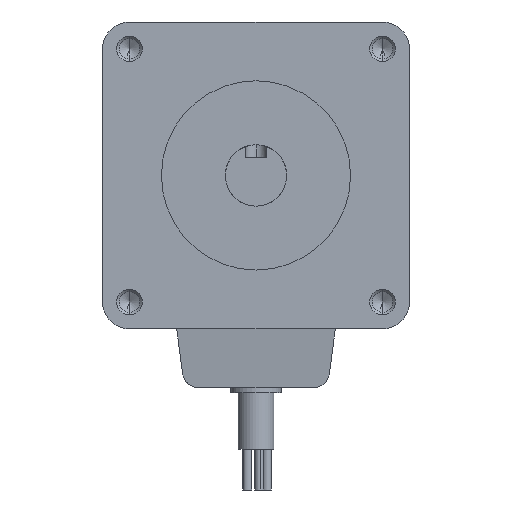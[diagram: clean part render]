
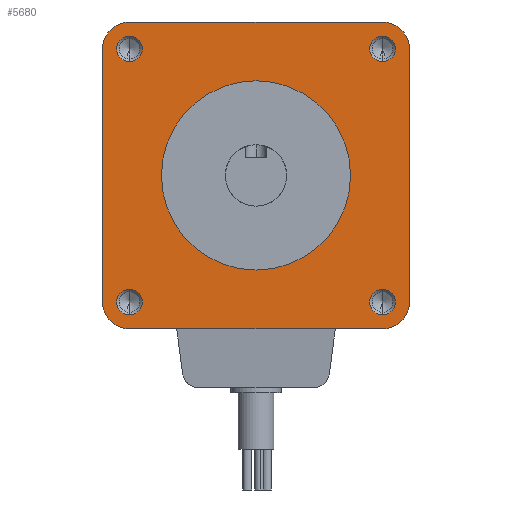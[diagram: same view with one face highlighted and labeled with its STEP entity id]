
A CAD part, front view. The second image highlights one B-rep face of the part: STEP entity #5680.
In plain terms, the highlighted planar face has unit normal (0, -1, 0).
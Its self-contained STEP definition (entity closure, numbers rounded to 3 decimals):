
#5279=CARTESIAN_POINT('POINT144486',(24.7,0.,
   30.));
#5280=VERTEX_POINT('VERTEX144486',#5279);
#5287=CARTESIAN_POINT('POINT144487',(30.,0.,
   24.7));
#5288=VERTEX_POINT('VERTEX144487',#5287);
#5289=CARTESIAN_POINT('POS243264',(24.7,0.,
   24.7));
#5290=DIRECTION('DIR363775',(0.,1.,
   0.));
#5291=DIRECTION('DIR363776',(0.,0.
   ,1.));
#5292=AXIS2_PLACEMENT_3D('AXIS120512',#5289,#5290,#5291);
#5293=CIRCLE('ELLIPSE55788',#5292,5.3);
#5294=EDGE_CURVE('EDGE224355',#5280,#5288,#5293,.T.);
#5312=CARTESIAN_POINT('POINT144488',(30.,0.,
   -24.7));
#5313=VERTEX_POINT('VERTEX144488',#5312);
#5314=CARTESIAN_POINT('POS243267',(30.,0.,
   24.7));
#5315=DIRECTION('DIR363780',(0.,
   0.,-1.));
#5316=VECTOR('VEC122754',#5315,1.);
#5317=LINE('STRAIGHT122754',#5314,#5316);
#5318=EDGE_CURVE('EDGE224357',#5288,#5313,#5317,.T.);
#5336=CARTESIAN_POINT('POINT144489',(24.7,0.,
   -30.));
#5337=VERTEX_POINT('VERTEX144489',#5336);
#5338=CARTESIAN_POINT('POS243270',(24.7,0.,
   -24.7));
#5339=DIRECTION('DIR363784',(0.,1.,
   0.));
#5340=DIRECTION('DIR363785',(1.,0.,0.));
#5341=AXIS2_PLACEMENT_3D('AXIS120515',#5338,#5339,#5340);
#5342=CIRCLE('ELLIPSE55789',#5341,5.3);
#5343=EDGE_CURVE('EDGE224359',#5313,#5337,#5342,.T.);
#5361=CARTESIAN_POINT('POINT144490',(-24.7,0.,
   -30.));
#5362=VERTEX_POINT('VERTEX144490',#5361);
#5363=CARTESIAN_POINT('POS243273',(24.7,0.,
   -30.));
#5364=DIRECTION('DIR363789',(-1.,0.,
   0.));
#5365=VECTOR('VEC122757',#5364,1.);
#5366=LINE('STRAIGHT122757',#5363,#5365);
#5367=EDGE_CURVE('EDGE224361',#5337,#5362,#5366,.T.);
#5385=CARTESIAN_POINT('POINT144491',(-30.,0.,
   -24.7));
#5386=VERTEX_POINT('VERTEX144491',#5385);
#5387=CARTESIAN_POINT('POS243276',(-24.7,0.,
   -24.7));
#5388=DIRECTION('DIR363793',(0.,1.,
   0.));
#5389=DIRECTION('DIR363794',(0.,
   0.,-1.));
#5390=AXIS2_PLACEMENT_3D('AXIS120518',#5387,#5388,#5389);
#5391=CIRCLE('ELLIPSE55790',#5390,5.3);
#5392=EDGE_CURVE('EDGE224363',#5362,#5386,#5391,.T.);
#5410=CARTESIAN_POINT('POINT144492',(-30.,0.,
   24.7));
#5411=VERTEX_POINT('VERTEX144492',#5410);
#5412=CARTESIAN_POINT('POS243279',(-30.,0.,
   -24.7));
#5413=DIRECTION('DIR363798',(0.,0.
   ,1.));
#5414=VECTOR('VEC122760',#5413,1.);
#5415=LINE('STRAIGHT122760',#5412,#5414);
#5416=EDGE_CURVE('EDGE224365',#5386,#5411,#5415,.T.);
#5434=CARTESIAN_POINT('POINT144493',(-24.7,0.,
   30.));
#5435=VERTEX_POINT('VERTEX144493',#5434);
#5436=CARTESIAN_POINT('POS243282',(-24.7,0.,
   24.7));
#5437=DIRECTION('DIR363802',(0.,1.,
   0.));
#5438=DIRECTION('DIR363803',(-1.,0.,0.));
#5439=AXIS2_PLACEMENT_3D('AXIS120521',#5436,#5437,#5438);
#5440=CIRCLE('ELLIPSE55791',#5439,5.3);
#5441=EDGE_CURVE('EDGE224367',#5411,#5435,#5440,.T.);
#5459=CARTESIAN_POINT('POS243285',(0.,
   0.,30.));
#5460=DIRECTION('DIR363807',(1.,0.,0.));
#5461=VECTOR('VEC122763',#5460,1.);
#5462=LINE('STRAIGHT122763',#5459,#5461);
#5463=EDGE_CURVE('EDGE224369',#5435,#5280,#5462,.T.);
#5474=CARTESIAN_POINT('POINT144494',(-24.749,
   0.,22.249));
#5475=VERTEX_POINT('VERTEX144494',#5474);
#5482=CARTESIAN_POINT('POINT144495',(-24.749,
   0.,27.249));
#5483=VERTEX_POINT('VERTEX144495',#5482);
#5484=CARTESIAN_POINT('POS243288',(-24.749,
   0.,24.749));
#5485=DIRECTION('DIR363811',(0.,1.,
   0.));
#5486=DIRECTION('DIR363812',(0.,0.,-1.))
   ;
#5487=AXIS2_PLACEMENT_3D('AXIS120524',#5484,#5485,#5486);
#5488=CIRCLE('ELLIPSE55792',#5487,2.5);
#5489=EDGE_CURVE('EDGE224371',#5483,#5475,#5488,.T.);
#5509=EDGE_CURVE('EDGE224373',#5475,#5483,#5488,.T.);
#5514=CARTESIAN_POINT('POINT144496',(24.749,
   0.,22.249));
#5515=VERTEX_POINT('VERTEX144496',#5514);
#5522=CARTESIAN_POINT('POINT144497',(24.749,
   0.,27.249));
#5523=VERTEX_POINT('VERTEX144497',#5522);
#5524=CARTESIAN_POINT('POS243292',(24.749,
   0.,24.749));
#5525=DIRECTION('DIR363817',(0.,1.,
   0.));
#5526=DIRECTION('DIR363818',(0.,0.,-1.))
   ;
#5527=AXIS2_PLACEMENT_3D('AXIS120526',#5524,#5525,#5526);
#5528=CIRCLE('ELLIPSE55793',#5527,2.5);
#5529=EDGE_CURVE('EDGE224375',#5523,#5515,#5528,.T.);
#5549=EDGE_CURVE('EDGE224377',#5515,#5523,#5528,.T.);
#5554=CARTESIAN_POINT('POINT144498',(-24.749,
   0.,-27.249));
#5555=VERTEX_POINT('VERTEX144498',#5554);
#5562=CARTESIAN_POINT('POINT144499',(-24.749,
   0.,-22.249));
#5563=VERTEX_POINT('VERTEX144499',#5562);
#5564=CARTESIAN_POINT('POS243296',(-24.749,
   0.,-24.749));
#5565=DIRECTION('DIR363823',(0.,1.,
   0.));
#5566=DIRECTION('DIR363824',(0.,0.,-1.))
   ;
#5567=AXIS2_PLACEMENT_3D('AXIS120528',#5564,#5565,#5566);
#5568=CIRCLE('ELLIPSE55794',#5567,2.5);
#5569=EDGE_CURVE('EDGE224379',#5563,#5555,#5568,.T.);
#5589=EDGE_CURVE('EDGE224381',#5555,#5563,#5568,.T.);
#5594=CARTESIAN_POINT('POINT144500',(24.749,
   0.,-27.249));
#5595=VERTEX_POINT('VERTEX144500',#5594);
#5602=CARTESIAN_POINT('POINT144501',(24.749,
   0.,-22.249));
#5603=VERTEX_POINT('VERTEX144501',#5602);
#5604=CARTESIAN_POINT('POS243300',(24.749,
   0.,-24.749));
#5605=DIRECTION('DIR363829',(0.,1.,
   0.));
#5606=DIRECTION('DIR363830',(0.,0.,-1.))
   ;
#5607=AXIS2_PLACEMENT_3D('AXIS120530',#5604,#5605,#5606);
#5608=CIRCLE('ELLIPSE55795',#5607,2.5);
#5609=EDGE_CURVE('EDGE224383',#5603,#5595,#5608,.T.);
#5629=EDGE_CURVE('EDGE224385',#5595,#5603,#5608,.T.);
#5634=ORIENTED_EDGE('COEDGE448887',*,*,#5629,.T.);
#5635=ORIENTED_EDGE('COEDGE448888',*,*,#5609,.T.);
#5636=EDGE_LOOP('NONE',(#5634,#5635));
#5637=FACE_BOUND('LOOP1',#5636,.T.);
#5638=ORIENTED_EDGE('COEDGE448889',*,*,#5589,.T.);
#5639=ORIENTED_EDGE('COEDGE448890',*,*,#5569,.T.);
#5640=EDGE_LOOP('NONE',(#5638,#5639));
#5641=FACE_BOUND('LOOP1',#5640,.T.);
#5642=ORIENTED_EDGE('COEDGE448891',*,*,#5549,.T.);
#5643=ORIENTED_EDGE('COEDGE448892',*,*,#5529,.T.);
#5644=EDGE_LOOP('NONE',(#5642,#5643));
#5645=FACE_BOUND('LOOP1',#5644,.T.);
#5646=ORIENTED_EDGE('COEDGE448893',*,*,#5509,.T.);
#5647=ORIENTED_EDGE('COEDGE448894',*,*,#5489,.T.);
#5648=EDGE_LOOP('NONE',(#5646,#5647));
#5649=FACE_BOUND('LOOP1',#5648,.T.);
#5650=CARTESIAN_POINT('POINT144502',(0.,
   0.,-18.5));
#5651=VERTEX_POINT('VERTEX144502',#5650);
#5652=CARTESIAN_POINT('POINT144503',(0.,
   0.,18.5));
#5653=VERTEX_POINT('VERTEX144503',#5652);
#5654=CARTESIAN_POINT('POS243303',(0.,0.,0.));
#5655=DIRECTION('DIR363834',(0.,1.,
   0.));
#5656=DIRECTION('DIR363835',(0.,
   0.,-1.));
#5657=AXIS2_PLACEMENT_3D('AXIS120532',#5654,#5655,#5656);
#5658=CIRCLE('ELLIPSE55796',#5657,18.5);
#5659=EDGE_CURVE('EDGE224386',#5651,#5653,#5658,.T.);
#5660=ORIENTED_EDGE('COEDGE448895',*,*,#5659,.T.);
#5661=EDGE_CURVE('EDGE224387',#5653,#5651,#5658,.T.);
#5662=ORIENTED_EDGE('COEDGE448896',*,*,#5661,.T.);
#5663=EDGE_LOOP('NONE',(#5660,#5662));
#5664=FACE_BOUND('LOOP1',#5663,.T.);
#5665=ORIENTED_EDGE('COEDGE448897',*,*,#5463,.F.);
#5666=ORIENTED_EDGE('COEDGE448898',*,*,#5441,.F.);
#5667=ORIENTED_EDGE('COEDGE448899',*,*,#5416,.F.);
#5668=ORIENTED_EDGE('COEDGE448900',*,*,#5392,.F.);
#5669=ORIENTED_EDGE('COEDGE448901',*,*,#5367,.F.);
#5670=ORIENTED_EDGE('COEDGE448902',*,*,#5343,.F.);
#5671=ORIENTED_EDGE('COEDGE448903',*,*,#5318,.F.);
#5672=ORIENTED_EDGE('COEDGE448904',*,*,#5294,.F.);
#5673=EDGE_LOOP('NONE',(#5665,#5666,#5667,#5668,#5669,#5670,#5671,#5672)
   );
#5674=FACE_BOUND('LOOP1',#5673,.T.);
#5675=CARTESIAN_POINT('POS243304',(0.,
   0.,0.));
#5676=DIRECTION('DIR363836',(0.,1.,
   0.));
#5677=DIRECTION('DIR363837',(1.,0.,
   0.));
#5678=AXIS2_PLACEMENT_3D('AXIS120533',#5675,#5676,#5677);
#5679=PLANE('PLANE35924',#5678);
#5680=ADVANCED_FACE('FACE89852',(#5637,#5641,#5645,#5649,#5664,#5674),
   #5679,.F.);
